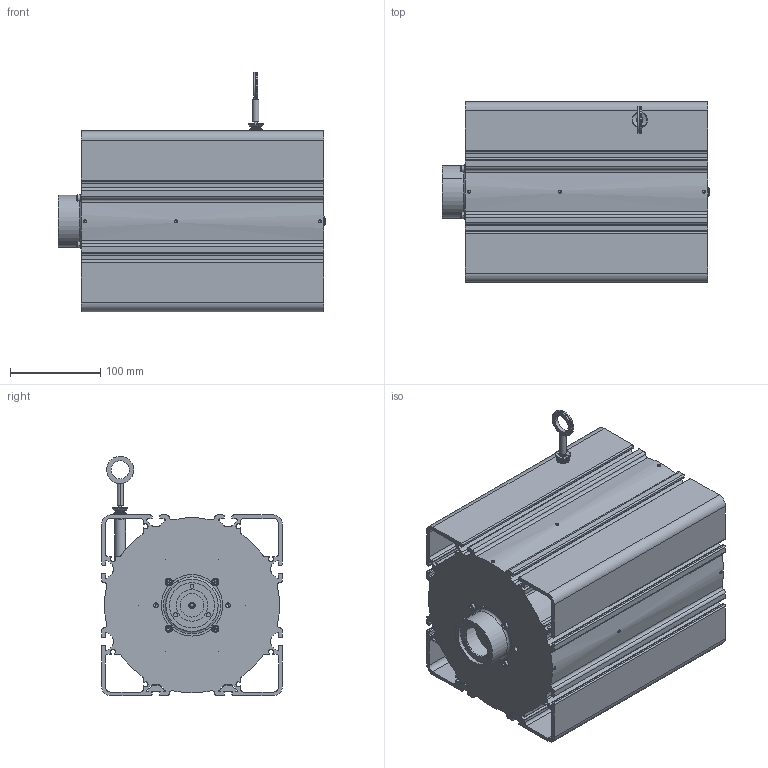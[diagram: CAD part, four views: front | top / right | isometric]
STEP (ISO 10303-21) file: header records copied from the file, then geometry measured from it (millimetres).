
FILE_DESCRIPTION((''),'2;1');
FILE_NAME('','2007-05-29T',(''),(''),'PRO/ENGINEER BY PARAMETRIC TECHNOLOGY CORPORATION, 2003250','PRO/ENGINEER BY PARAMETRIC TECHNOLOGY CORPORATION, 2003250','');
FILE_SCHEMA(('CONFIG_CONTROL_DESIGN'));
Length unit declared in the file: millimetre
Bounding box: 296.17 x 200 x 264.95 mm (x, y, z)
Volume: 1871519.5 mm3; surface area: 776692.2 mm2
Topology: 1 solids, 6 shells, 820 faces, 2195 edges, 1419 vertices
Faces by surface type: cylinder 382, plane 298, cone 96, torus 42, sphere 2
Entity records: 26777 total; most frequent: CARTESIAN_POINT 5698, DIRECTION 4595, ORIENTED_EDGE 4334, EDGE_CURVE 2167, AXIS2_PLACEMENT_3D 1766, VERTEX_POINT 1419, VECTOR 1063, LINE 1063
